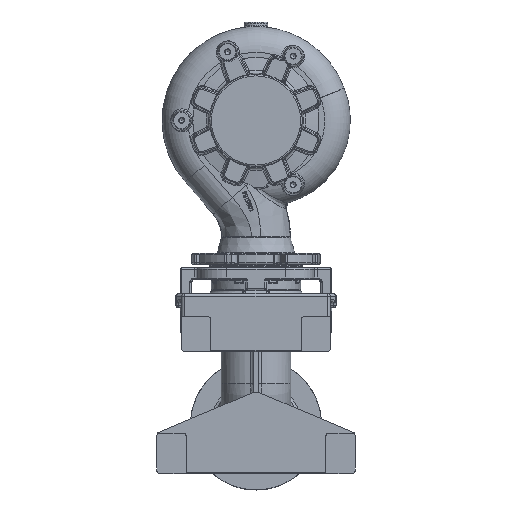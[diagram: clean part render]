
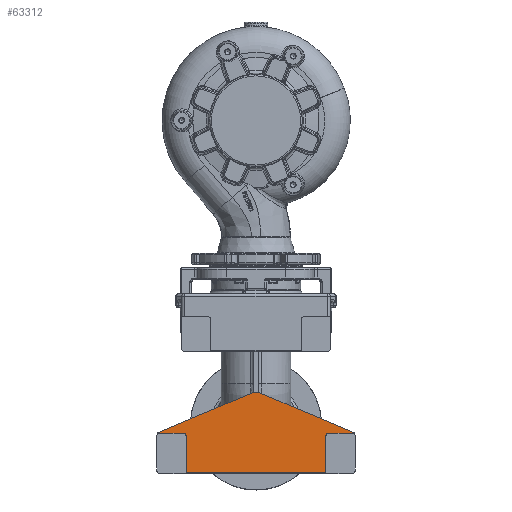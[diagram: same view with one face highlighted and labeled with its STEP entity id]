
A CAD part, front view. The second image highlights one B-rep face of the part: STEP entity #63312.
In plain terms, the highlighted planar face has unit normal (0, -1, 0).
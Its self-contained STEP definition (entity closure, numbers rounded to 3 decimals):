
#1096 = DIRECTION ( 'NONE',  ( 0., 0., 1. ) ) ;
#1578 = VECTOR ( 'NONE', #36016, 1000. ) ;
#1856 = ORIENTED_EDGE ( 'NONE', *, *, #64506, .T. ) ;
#2398 = DIRECTION ( 'NONE',  ( -1., 0., 0. ) ) ;
#3768 = EDGE_CURVE ( 'NONE', #45462, #8174, #44086, .T. ) ;
#5220 = VECTOR ( 'NONE', #94467, 1000. ) ;
#6721 = ORIENTED_EDGE ( 'NONE', *, *, #68263, .F. ) ;
#7435 = ORIENTED_EDGE ( 'NONE', *, *, #60289, .F. ) ;
#7669 = EDGE_CURVE ( 'NONE', #90975, #79794, #42140, .T. ) ;
#8174 = VERTEX_POINT ( 'NONE', #78736 ) ;
#8818 = CARTESIAN_POINT ( 'NONE',  ( 165., -221., -243.309 ) ) ;
#9567 = DIRECTION ( 'NONE',  ( 0., 0., 1. ) ) ;
#10369 = CARTESIAN_POINT ( 'NONE',  ( 120., -221., -307.5 ) ) ;
#10380 = VERTEX_POINT ( 'NONE', #33653 ) ;
#10448 = VERTEX_POINT ( 'NONE', #26808 ) ;
#10901 = AXIS2_PLACEMENT_3D ( 'NONE', #8818, #74551, #9567 ) ;
#11020 = AXIS2_PLACEMENT_3D ( 'NONE', #43004, #51029, #1096 ) ;
#12170 = ORIENTED_EDGE ( 'NONE', *, *, #55654, .F. ) ;
#12213 = CARTESIAN_POINT ( 'NONE',  ( 125., -221., -240. ) ) ;
#14574 = VERTEX_POINT ( 'NONE', #43333 ) ;
#14995 = CARTESIAN_POINT ( 'NONE',  ( 120., -221., -310. ) ) ;
#15744 = CIRCLE ( 'NONE', #11020, 5. ) ;
#17167 = VECTOR ( 'NONE', #50288, 1000. ) ;
#19850 = DIRECTION ( 'NONE',  ( 0., 0., 1. ) ) ;
#20870 = CARTESIAN_POINT ( 'NONE',  ( -120., -221., -307.5 ) ) ;
#20985 = EDGE_CURVE ( 'NONE', #10448, #8174, #53924, .T. ) ;
#24929 = VERTEX_POINT ( 'NONE', #20870 ) ;
#26808 = CARTESIAN_POINT ( 'NONE',  ( -125., -221., -240. ) ) ;
#27596 = AXIS2_PLACEMENT_3D ( 'NONE', #75970, #35560, #84725 ) ;
#31864 = VECTOR ( 'NONE', #83770, 1000. ) ;
#32752 = VERTEX_POINT ( 'NONE', #54602 ) ;
#33653 = CARTESIAN_POINT ( 'NONE',  ( 5., -221., -169.962 ) ) ;
#33836 = CARTESIAN_POINT ( 'NONE',  ( 125., -221., -240. ) ) ;
#35560 = DIRECTION ( 'NONE',  ( 0., -1., 0. ) ) ;
#36016 = DIRECTION ( 'NONE',  ( -0.921, 0., 0.391 ) ) ;
#39885 = EDGE_CURVE ( 'NONE', #24929, #79794, #69900, .T. ) ;
#41322 = CARTESIAN_POINT ( 'NONE',  ( -170., -221., -307.5 ) ) ;
#42058 = DIRECTION ( 'NONE',  ( 0., -1., 0. ) ) ;
#42140 = LINE ( 'NONE', #14995, #48672 ) ;
#43004 = CARTESIAN_POINT ( 'NONE',  ( -125., -221., -245. ) ) ;
#43333 = CARTESIAN_POINT ( 'NONE',  ( 168.748, -221., -240. ) ) ;
#44086 = CIRCLE ( 'NONE', #27596, 5. ) ;
#44965 = CARTESIAN_POINT ( 'NONE',  ( -5., -221., -169.962 ) ) ;
#45462 = VERTEX_POINT ( 'NONE', #88602 ) ;
#46972 = VECTOR ( 'NONE', #2398, 1000. ) ;
#48672 = VECTOR ( 'NONE', #80332, 1000. ) ;
#49320 = AXIS2_PLACEMENT_3D ( 'NONE', #92381, #42058, #91284 ) ;
#49398 = ORIENTED_EDGE ( 'NONE', *, *, #39885, .T. ) ;
#50288 = DIRECTION ( 'NONE',  ( -0.921, 0., -0.391 ) ) ;
#50694 = VERTEX_POINT ( 'NONE', #70624 ) ;
#51029 = DIRECTION ( 'NONE',  ( 0., -1., 0. ) ) ;
#51868 = ORIENTED_EDGE ( 'NONE', *, *, #74588, .F. ) ;
#53924 = LINE ( 'NONE', #75785, #31864 ) ;
#54140 = DIRECTION ( 'NONE',  ( 0., 1., 0. ) ) ;
#54602 = CARTESIAN_POINT ( 'NONE',  ( -120., -221., -245. ) ) ;
#55654 = EDGE_CURVE ( 'NONE', #32752, #10448, #15744, .T. ) ;
#56085 = VERTEX_POINT ( 'NONE', #33836 ) ;
#56557 = ORIENTED_EDGE ( 'NONE', *, *, #20985, .F. ) ;
#57209 = CARTESIAN_POINT ( 'NONE',  ( -170., -221., -240. ) ) ;
#59395 = EDGE_CURVE ( 'NONE', #50694, #45462, #79257, .T. ) ;
#60289 = EDGE_CURVE ( 'NONE', #56085, #90975, #102499, .T. ) ;
#60755 = AXIS2_PLACEMENT_3D ( 'NONE', #103017, #54140, #19850 ) ;
#60879 = ORIENTED_EDGE ( 'NONE', *, *, #3768, .T. ) ;
#63312 = ADVANCED_FACE ( 'NONE', ( #81330 ), #95349, .F. ) ;
#63710 = EDGE_CURVE ( 'NONE', #14574, #96893, #87804, .T. ) ;
#64038 = EDGE_LOOP ( 'NONE', ( #6721, #49398, #88308, #7435, #51868, #66984, #1856, #98773, #84665, #60879, #56557, #12170 ) ) ;
#64506 = EDGE_CURVE ( 'NONE', #96893, #10380, #92135, .T. ) ;
#64980 = LINE ( 'NONE', #44965, #46972 ) ;
#66984 = ORIENTED_EDGE ( 'NONE', *, *, #63710, .T. ) ;
#68263 = EDGE_CURVE ( 'NONE', #24929, #32752, #71147, .T. ) ;
#69805 = LINE ( 'NONE', #12213, #89278 ) ;
#69900 = LINE ( 'NONE', #41322, #88130 ) ;
#70624 = CARTESIAN_POINT ( 'NONE',  ( -5., -221., -169.962 ) ) ;
#71147 = LINE ( 'NONE', #86148, #5220 ) ;
#74551 = DIRECTION ( 'NONE',  ( 0., -1., 0. ) ) ;
#74588 = EDGE_CURVE ( 'NONE', #14574, #56085, #69805, .T. ) ;
#75785 = CARTESIAN_POINT ( 'NONE',  ( -170., -221., -240. ) ) ;
#75970 = CARTESIAN_POINT ( 'NONE',  ( -165., -221., -243.309 ) ) ;
#78736 = CARTESIAN_POINT ( 'NONE',  ( -168.748, -221., -240. ) ) ;
#79257 = LINE ( 'NONE', #57209, #17167 ) ;
#79794 = VERTEX_POINT ( 'NONE', #10369 ) ;
#80178 = CARTESIAN_POINT ( 'NONE',  ( 166.954, -221., -238.707 ) ) ;
#80332 = DIRECTION ( 'NONE',  ( 0., 0., -1. ) ) ;
#81330 = FACE_OUTER_BOUND ( 'NONE', #64038, .T. ) ;
#83770 = DIRECTION ( 'NONE',  ( -1., 0., 0. ) ) ;
#84665 = ORIENTED_EDGE ( 'NONE', *, *, #59395, .T. ) ;
#84725 = DIRECTION ( 'NONE',  ( 0., 0., 1. ) ) ;
#86148 = CARTESIAN_POINT ( 'NONE',  ( -120., -221., -310. ) ) ;
#87804 = CIRCLE ( 'NONE', #10901, 5. ) ;
#88130 = VECTOR ( 'NONE', #99625, 1000. ) ;
#88308 = ORIENTED_EDGE ( 'NONE', *, *, #7669, .F. ) ;
#88602 = CARTESIAN_POINT ( 'NONE',  ( -166.954, -221., -238.707 ) ) ;
#89278 = VECTOR ( 'NONE', #96051, 1000. ) ;
#90975 = VERTEX_POINT ( 'NONE', #98028 ) ;
#91284 = DIRECTION ( 'NONE',  ( 0., 0., 1. ) ) ;
#92135 = LINE ( 'NONE', #101925, #1578 ) ;
#92381 = CARTESIAN_POINT ( 'NONE',  ( 125., -221., -245. ) ) ;
#94467 = DIRECTION ( 'NONE',  ( 0., 0., 1. ) ) ;
#95349 = PLANE ( 'NONE',  #60755 ) ;
#96051 = DIRECTION ( 'NONE',  ( -1., 0., 0. ) ) ;
#96062 = EDGE_CURVE ( 'NONE', #10380, #50694, #64980, .T. ) ;
#96893 = VERTEX_POINT ( 'NONE', #80178 ) ;
#98028 = CARTESIAN_POINT ( 'NONE',  ( 120., -221., -245. ) ) ;
#98773 = ORIENTED_EDGE ( 'NONE', *, *, #96062, .T. ) ;
#99625 = DIRECTION ( 'NONE',  ( 1., 0., 0. ) ) ;
#101925 = CARTESIAN_POINT ( 'NONE',  ( 170., -221., -240. ) ) ;
#102499 = CIRCLE ( 'NONE', #49320, 5. ) ;
#103017 = CARTESIAN_POINT ( 'NONE',  ( -170., -221., -169.962 ) ) ;
